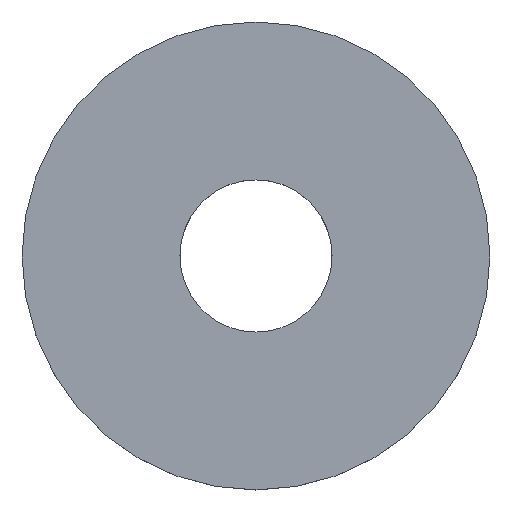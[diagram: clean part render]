
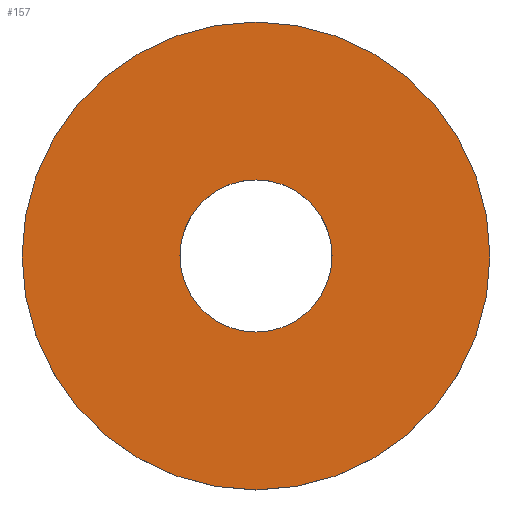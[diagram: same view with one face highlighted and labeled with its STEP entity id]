
A CAD part, top view. The second image highlights one B-rep face of the part: STEP entity #157.
In plain terms, the highlighted planar face has unit normal (0, 0, 1).
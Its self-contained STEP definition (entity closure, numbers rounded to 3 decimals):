
#1 = CIRCLE ( 'NONE', #111, 10. ) ;
#16 = VERTEX_POINT ( 'NONE', #119 ) ;
#18 = VERTEX_POINT ( 'NONE', #145 ) ;
#28 = CIRCLE ( 'NONE', #301, 3.25 ) ;
#34 = DIRECTION ( 'NONE',  ( 1., 0., 0. ) ) ;
#39 = EDGE_CURVE ( 'NONE', #165, #16, #171, .T. ) ;
#58 = AXIS2_PLACEMENT_3D ( 'NONE', #193, #169, #216 ) ;
#60 = DIRECTION ( 'NONE',  ( 1., 0., 0. ) ) ;
#72 = EDGE_LOOP ( 'NONE', ( #208, #174 ) ) ;
#78 = CARTESIAN_POINT ( 'NONE',  ( 3.25, 0., 1.25 ) ) ;
#80 = DIRECTION ( 'NONE',  ( 1., 0., 0. ) ) ;
#100 = CARTESIAN_POINT ( 'NONE',  ( 0., 0., 1.25 ) ) ;
#111 = AXIS2_PLACEMENT_3D ( 'NONE', #246, #264, #80 ) ;
#119 = CARTESIAN_POINT ( 'NONE',  ( 10., 0., 1.25 ) ) ;
#127 = CARTESIAN_POINT ( 'NONE',  ( 0., 0., 1.25 ) ) ;
#136 = FACE_OUTER_BOUND ( 'NONE', #143, .T. ) ;
#137 = AXIS2_PLACEMENT_3D ( 'NONE', #127, #151, #34 ) ;
#141 = ORIENTED_EDGE ( 'NONE', *, *, #39, .T. ) ;
#143 = EDGE_LOOP ( 'NONE', ( #141, #162 ) ) ;
#145 = CARTESIAN_POINT ( 'NONE',  ( -3.25, 0., 1.25 ) ) ;
#147 = CARTESIAN_POINT ( 'NONE',  ( -10., 0., 1.25 ) ) ;
#151 = DIRECTION ( 'NONE',  ( 0., 0., 1. ) ) ;
#157 = ADVANCED_FACE ( 'NONE', ( #136, #181 ), #242, .T. ) ;
#162 = ORIENTED_EDGE ( 'NONE', *, *, #257, .T. ) ;
#165 = VERTEX_POINT ( 'NONE', #147 ) ;
#166 = CIRCLE ( 'NONE', #204, 3.25 ) ;
#169 = DIRECTION ( 'NONE',  ( 0., 0., 1. ) ) ;
#171 = CIRCLE ( 'NONE', #58, 10. ) ;
#174 = ORIENTED_EDGE ( 'NONE', *, *, #194, .F. ) ;
#181 = FACE_BOUND ( 'NONE', #72, .T. ) ;
#193 = CARTESIAN_POINT ( 'NONE',  ( 0., 0., 1.25 ) ) ;
#194 = EDGE_CURVE ( 'NONE', #295, #18, #28, .T. ) ;
#203 = CARTESIAN_POINT ( 'NONE',  ( 0., 0., 1.25 ) ) ;
#204 = AXIS2_PLACEMENT_3D ( 'NONE', #100, #294, #60 ) ;
#208 = ORIENTED_EDGE ( 'NONE', *, *, #237, .F. ) ;
#216 = DIRECTION ( 'NONE',  ( 1., 0., 0. ) ) ;
#227 = DIRECTION ( 'NONE',  ( 0., 0., 1. ) ) ;
#237 = EDGE_CURVE ( 'NONE', #18, #295, #166, .T. ) ;
#242 = PLANE ( 'NONE',  #137 ) ;
#246 = CARTESIAN_POINT ( 'NONE',  ( 0., 0., 1.25 ) ) ;
#257 = EDGE_CURVE ( 'NONE', #16, #165, #1, .T. ) ;
#264 = DIRECTION ( 'NONE',  ( 0., 0., 1. ) ) ;
#291 = DIRECTION ( 'NONE',  ( 1., 0., 0. ) ) ;
#294 = DIRECTION ( 'NONE',  ( 0., 0., 1. ) ) ;
#295 = VERTEX_POINT ( 'NONE', #78 ) ;
#301 = AXIS2_PLACEMENT_3D ( 'NONE', #203, #227, #291 ) ;
